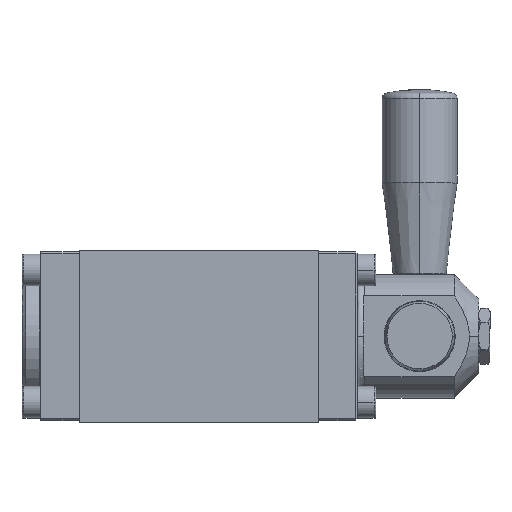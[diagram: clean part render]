
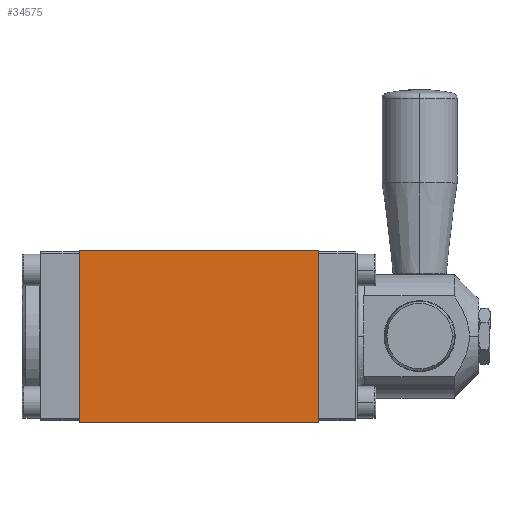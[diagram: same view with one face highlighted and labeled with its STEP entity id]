
A CAD part, top view. The second image highlights one B-rep face of the part: STEP entity #34575.
In plain terms, the highlighted planar face has unit normal (0, 0, 1).
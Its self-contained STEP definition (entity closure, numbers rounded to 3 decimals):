
#1079 = VECTOR ( 'NONE', #12939, 1000. ) ;
#1195 = CARTESIAN_POINT ( 'NONE',  ( 64., -23., 23. ) ) ;
#1901 = VERTEX_POINT ( 'NONE', #1195 ) ;
#2303 = DIRECTION ( 'NONE',  ( -1., 0., 0. ) ) ;
#2469 = EDGE_CURVE ( 'NONE', #22419, #25937, #12267, .T. ) ;
#2991 = EDGE_CURVE ( 'NONE', #14745, #1901, #31930, .T. ) ;
#3203 = CARTESIAN_POINT ( 'NONE',  ( 0., 23., 23. ) ) ;
#3778 = CARTESIAN_POINT ( 'NONE',  ( 64., -23., 23. ) ) ;
#6267 = PLANE ( 'NONE',  #22908 ) ;
#7811 = CARTESIAN_POINT ( 'NONE',  ( 64., -23., 23. ) ) ;
#12267 = LINE ( 'NONE', #21862, #1079 ) ;
#12415 = ORIENTED_EDGE ( 'NONE', *, *, #31161, .T. ) ;
#12872 = ORIENTED_EDGE ( 'NONE', *, *, #36429, .F. ) ;
#12939 = DIRECTION ( 'NONE',  ( 0., -1., 0. ) ) ;
#13440 = DIRECTION ( 'NONE',  ( -1., 0., 0. ) ) ;
#13912 = VECTOR ( 'NONE', #2303, 1000. ) ;
#14745 = VERTEX_POINT ( 'NONE', #29870 ) ;
#15651 = VECTOR ( 'NONE', #13440, 1000. ) ;
#16630 = LINE ( 'NONE', #7811, #13912 ) ;
#16968 = FACE_OUTER_BOUND ( 'NONE', #34032, .T. ) ;
#18045 = DIRECTION ( 'NONE',  ( 0., 0., -1. ) ) ;
#21862 = CARTESIAN_POINT ( 'NONE',  ( 0., -23., 23. ) ) ;
#22385 = ORIENTED_EDGE ( 'NONE', *, *, #2991, .F. ) ;
#22419 = VERTEX_POINT ( 'NONE', #3203 ) ;
#22893 = ORIENTED_EDGE ( 'NONE', *, *, #2469, .T. ) ;
#22908 = AXIS2_PLACEMENT_3D ( 'NONE', #3778, #18045, #32498 ) ;
#23155 = DIRECTION ( 'NONE',  ( 0., -1., 0. ) ) ;
#25110 = CARTESIAN_POINT ( 'NONE',  ( 0., -23., 23. ) ) ;
#25826 = CARTESIAN_POINT ( 'NONE',  ( 64., -23., 23. ) ) ;
#25937 = VERTEX_POINT ( 'NONE', #25110 ) ;
#27345 = LINE ( 'NONE', #27928, #15651 ) ;
#27928 = CARTESIAN_POINT ( 'NONE',  ( 64., 23., 23. ) ) ;
#29870 = CARTESIAN_POINT ( 'NONE',  ( 64., 23., 23. ) ) ;
#31161 = EDGE_CURVE ( 'NONE', #14745, #22419, #27345, .T. ) ;
#31930 = LINE ( 'NONE', #25826, #34618 ) ;
#32498 = DIRECTION ( 'NONE',  ( -1., 0., 0. ) ) ;
#34032 = EDGE_LOOP ( 'NONE', ( #22893, #12872, #22385, #12415 ) ) ;
#34575 = ADVANCED_FACE ( 'NONE', ( #16968 ), #6267, .F. ) ;
#34618 = VECTOR ( 'NONE', #23155, 1000. ) ;
#36429 = EDGE_CURVE ( 'NONE', #1901, #25937, #16630, .T. ) ;
